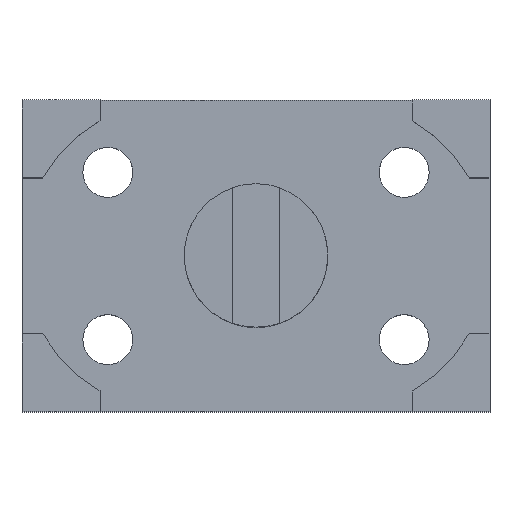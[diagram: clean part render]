
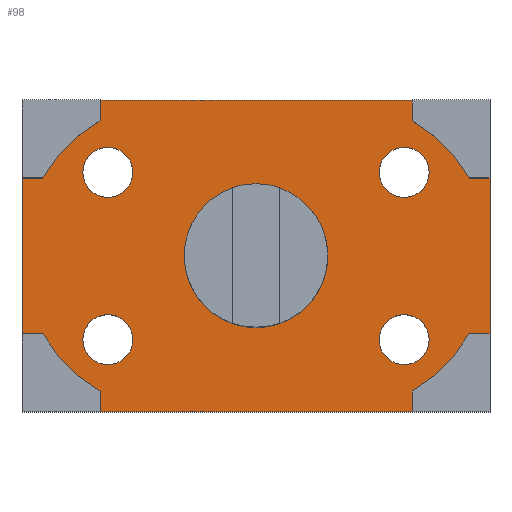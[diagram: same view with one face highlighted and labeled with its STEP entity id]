
A CAD part, top view. The second image highlights one B-rep face of the part: STEP entity #98.
In plain terms, the highlighted planar face has unit normal (0, 0, 1).
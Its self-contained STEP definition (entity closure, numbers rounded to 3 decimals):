
#98=ADVANCED_FACE('',(#378,#380,#382,#384,#386,#388),#390,.T.);
#378=FACE_BOUND('',#379,.T.);
#379=EDGE_LOOP('',(#616,#617,#618,#619,#620,#621,#622,#623,#624,#625,#626,#627,#628,
#629,#630,#631));
#380=FACE_BOUND('',#381,.T.);
#381=EDGE_LOOP('',(#632));
#382=FACE_BOUND('',#383,.T.);
#383=EDGE_LOOP('',(#633));
#384=FACE_BOUND('',#385,.T.);
#385=EDGE_LOOP('',(#634));
#386=FACE_BOUND('',#387,.T.);
#387=EDGE_LOOP('',(#635));
#388=FACE_BOUND('',#389,.T.);
#389=EDGE_LOOP('',(#636));
#390=PLANE('',#391);
#391=AXIS2_PLACEMENT_3D('',#392,#393,#394);
#392=CARTESIAN_POINT('',(0.,0.,20.));
#393=DIRECTION('',(0.,0.,1.));
#394=DIRECTION('',(-1.,0.,0.));
#616=ORIENTED_EDGE('',*,*,#771,.F.);
#617=ORIENTED_EDGE('',*,*,#772,.F.);
#618=ORIENTED_EDGE('',*,*,#773,.F.);
#619=ORIENTED_EDGE('',*,*,#774,.T.);
#620=ORIENTED_EDGE('',*,*,#775,.F.);
#621=ORIENTED_EDGE('',*,*,#776,.F.);
#622=ORIENTED_EDGE('',*,*,#777,.F.);
#623=ORIENTED_EDGE('',*,*,#778,.T.);
#624=ORIENTED_EDGE('',*,*,#779,.F.);
#625=ORIENTED_EDGE('',*,*,#780,.F.);
#626=ORIENTED_EDGE('',*,*,#781,.F.);
#627=ORIENTED_EDGE('',*,*,#782,.T.);
#628=ORIENTED_EDGE('',*,*,#783,.F.);
#629=ORIENTED_EDGE('',*,*,#784,.F.);
#630=ORIENTED_EDGE('',*,*,#785,.F.);
#631=ORIENTED_EDGE('',*,*,#786,.T.);
#632=ORIENTED_EDGE('',*,*,#766,.F.);
#633=ORIENTED_EDGE('',*,*,#787,.T.);
#634=ORIENTED_EDGE('',*,*,#788,.T.);
#635=ORIENTED_EDGE('',*,*,#789,.T.);
#636=ORIENTED_EDGE('',*,*,#790,.T.);
#766=EDGE_CURVE('',#857,#857,#858,.T.);
#771=EDGE_CURVE('',#863,#864,#865,.F.);
#772=EDGE_CURVE('',#866,#863,#867,.F.);
#773=EDGE_CURVE('',#868,#866,#869,.F.);
#774=EDGE_CURVE('',#868,#870,#871,.T.);
#775=EDGE_CURVE('',#872,#870,#873,.T.);
#776=EDGE_CURVE('',#874,#872,#875,.T.);
#777=EDGE_CURVE('',#876,#874,#877,.T.);
#778=EDGE_CURVE('',#876,#878,#879,.T.);
#779=EDGE_CURVE('',#880,#878,#881,.F.);
#780=EDGE_CURVE('',#882,#880,#883,.F.);
#781=EDGE_CURVE('',#884,#882,#885,.F.);
#782=EDGE_CURVE('',#884,#886,#887,.T.);
#783=EDGE_CURVE('',#888,#886,#889,.T.);
#784=EDGE_CURVE('',#890,#888,#891,.T.);
#785=EDGE_CURVE('',#892,#890,#893,.T.);
#786=EDGE_CURVE('',#892,#864,#894,.T.);
#787=EDGE_CURVE('',#895,#895,#896,.F.);
#788=EDGE_CURVE('',#897,#897,#898,.F.);
#789=EDGE_CURVE('',#899,#899,#900,.F.);
#790=EDGE_CURVE('',#901,#901,#902,.F.);
#857=VERTEX_POINT('',#1020);
#858=CIRCLE('',#1021,23.);
#863=VERTEX_POINT('',#1037);
#864=VERTEX_POINT('',#1038);
#865=LINE('',#1039,#1040);
#866=VERTEX_POINT('',#1042);
#867=CIRCLE('',#1043,50.);
#868=VERTEX_POINT('',#1047);
#869=LINE('',#1048,#1049);
#870=VERTEX_POINT('',#1051);
#871=LINE('',#1052,#1053);
#872=VERTEX_POINT('',#1055);
#873=LINE('',#1056,#1057);
#874=VERTEX_POINT('',#1059);
#875=CIRCLE('',#1060,50.);
#876=VERTEX_POINT('',#1064);
#877=LINE('',#1065,#1066);
#878=VERTEX_POINT('',#1068);
#879=LINE('',#1069,#1070);
#880=VERTEX_POINT('',#1072);
#881=LINE('',#1073,#1074);
#882=VERTEX_POINT('',#1076);
#883=CIRCLE('',#1077,50.);
#884=VERTEX_POINT('',#1081);
#885=LINE('',#1082,#1083);
#886=VERTEX_POINT('',#1085);
#887=LINE('',#1086,#1087);
#888=VERTEX_POINT('',#1089);
#889=LINE('',#1090,#1091);
#890=VERTEX_POINT('',#1093);
#891=CIRCLE('',#1094,50.);
#892=VERTEX_POINT('',#1098);
#893=LINE('',#1099,#1100);
#894=LINE('',#1102,#1103);
#895=VERTEX_POINT('',#1105);
#896=CIRCLE('',#1106,8.);
#897=VERTEX_POINT('',#1110);
#898=CIRCLE('',#1111,8.);
#899=VERTEX_POINT('',#1115);
#900=CIRCLE('',#1116,8.);
#901=VERTEX_POINT('',#1120);
#902=CIRCLE('',#1121,8.);
#1020=CARTESIAN_POINT('',(-23.,0.,20.));
#1021=AXIS2_PLACEMENT_3D('',#1022,#1023,#1024);
#1022=CARTESIAN_POINT('',(0.,0.,20.));
#1023=DIRECTION('',(0.,0.,1.));
#1024=DIRECTION('',(-1.,0.,0.));
#1037=CARTESIAN_POINT('',(-68.301,-25.,20.));
#1038=CARTESIAN_POINT('',(-75.,-25.,20.));
#1039=CARTESIAN_POINT('',(-75.,-25.,20.));
#1040=VECTOR('',#1041,1.);
#1041=DIRECTION('',(1.,0.,0.));
#1042=CARTESIAN_POINT('',(-50.,-43.301,20.));
#1043=AXIS2_PLACEMENT_3D('',#1044,#1045,#1046);
#1044=CARTESIAN_POINT('',(-25.,0.,20.));
#1045=DIRECTION('',(0.,0.,1.));
#1046=DIRECTION('',(-0.866,-0.5,0.));
#1047=CARTESIAN_POINT('',(-50.,-50.,20.));
#1048=CARTESIAN_POINT('',(-50.,-43.301,20.));
#1049=VECTOR('',#1050,1.);
#1050=DIRECTION('',(0.,-1.,0.));
#1051=CARTESIAN_POINT('',(50.,-50.,20.));
#1052=CARTESIAN_POINT('',(-50.,-50.,20.));
#1053=VECTOR('',#1054,1.);
#1054=DIRECTION('',(1.,0.,0.));
#1055=CARTESIAN_POINT('',(50.,-43.301,20.));
#1056=CARTESIAN_POINT('',(50.,-43.301,20.));
#1057=VECTOR('',#1058,1.);
#1058=DIRECTION('',(0.,-1.,0.));
#1059=CARTESIAN_POINT('',(68.301,-25.,20.));
#1060=AXIS2_PLACEMENT_3D('',#1061,#1062,#1063);
#1061=CARTESIAN_POINT('',(25.,0.,20.));
#1062=DIRECTION('',(0.,0.,-1.));
#1063=DIRECTION('',(0.866,-0.5,0.));
#1064=CARTESIAN_POINT('',(75.,-25.,20.));
#1065=CARTESIAN_POINT('',(75.,-25.,20.));
#1066=VECTOR('',#1067,1.);
#1067=DIRECTION('',(-1.,0.,0.));
#1068=CARTESIAN_POINT('',(75.,25.,20.));
#1069=CARTESIAN_POINT('',(75.,-25.,20.));
#1070=VECTOR('',#1071,1.);
#1071=DIRECTION('',(0.,1.,0.));
#1072=CARTESIAN_POINT('',(68.301,25.,20.));
#1073=CARTESIAN_POINT('',(75.,25.,20.));
#1074=VECTOR('',#1075,1.);
#1075=DIRECTION('',(-1.,0.,0.));
#1076=CARTESIAN_POINT('',(50.,43.301,20.));
#1077=AXIS2_PLACEMENT_3D('',#1078,#1079,#1080);
#1078=CARTESIAN_POINT('',(25.,0.,20.));
#1079=DIRECTION('',(0.,0.,1.));
#1080=DIRECTION('',(0.866,0.5,0.));
#1081=CARTESIAN_POINT('',(50.,50.,20.));
#1082=CARTESIAN_POINT('',(50.,43.301,20.));
#1083=VECTOR('',#1084,1.);
#1084=DIRECTION('',(0.,1.,0.));
#1085=CARTESIAN_POINT('',(-50.,50.,20.));
#1086=CARTESIAN_POINT('',(50.,50.,20.));
#1087=VECTOR('',#1088,1.);
#1088=DIRECTION('',(-1.,0.,0.));
#1089=CARTESIAN_POINT('',(-50.,43.301,20.));
#1090=CARTESIAN_POINT('',(-50.,43.301,20.));
#1091=VECTOR('',#1092,1.);
#1092=DIRECTION('',(0.,1.,0.));
#1093=CARTESIAN_POINT('',(-68.301,25.,20.));
#1094=AXIS2_PLACEMENT_3D('',#1095,#1096,#1097);
#1095=CARTESIAN_POINT('',(-25.,0.,20.));
#1096=DIRECTION('',(0.,0.,-1.));
#1097=DIRECTION('',(-0.866,0.5,0.));
#1098=CARTESIAN_POINT('',(-75.,25.,20.));
#1099=CARTESIAN_POINT('',(-75.,25.,20.));
#1100=VECTOR('',#1101,1.);
#1101=DIRECTION('',(1.,0.,0.));
#1102=CARTESIAN_POINT('',(-75.,25.,20.));
#1103=VECTOR('',#1104,1.);
#1104=DIRECTION('',(0.,-1.,0.));
#1105=CARTESIAN_POINT('',(39.498,26.812,20.));
#1106=AXIS2_PLACEMENT_3D('',#1107,#1108,#1109);
#1107=CARTESIAN_POINT('',(47.498,26.812,20.));
#1108=DIRECTION('',(0.,0.,1.));
#1109=DIRECTION('',(-1.,0.,0.));
#1110=CARTESIAN_POINT('',(39.498,-26.812,20.));
#1111=AXIS2_PLACEMENT_3D('',#1112,#1113,#1114);
#1112=CARTESIAN_POINT('',(47.498,-26.812,20.));
#1113=DIRECTION('',(0.,0.,1.));
#1114=DIRECTION('',(-1.,0.,0.));
#1115=CARTESIAN_POINT('',(-39.498,26.812,20.));
#1116=AXIS2_PLACEMENT_3D('',#1117,#1118,#1119);
#1117=CARTESIAN_POINT('',(-47.498,26.812,20.));
#1118=DIRECTION('',(0.,0.,1.));
#1119=DIRECTION('',(1.,0.,0.));
#1120=CARTESIAN_POINT('',(-39.498,-26.812,20.));
#1121=AXIS2_PLACEMENT_3D('',#1122,#1123,#1124);
#1122=CARTESIAN_POINT('',(-47.498,-26.812,20.));
#1123=DIRECTION('',(0.,0.,1.));
#1124=DIRECTION('',(1.,0.,0.));
